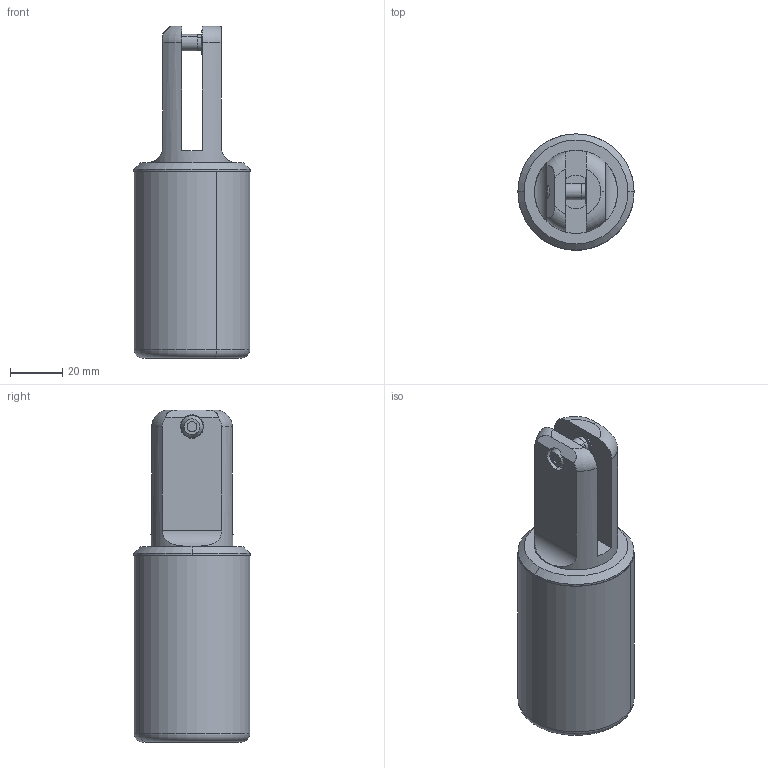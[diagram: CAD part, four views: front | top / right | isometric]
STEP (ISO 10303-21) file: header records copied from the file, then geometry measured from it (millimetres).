
FILE_DESCRIPTION (( 'STEP AP203' ), '1' );
FILE_NAME ('SP-02PF.STEP', '2008-08-12T04:00:43', ( 'ANDREW' ), ( 'SIMONDS INC' ), 'SwSTEP 2.0', 'SolidWorks 2008', '' );
FILE_SCHEMA (( 'CONFIG_CONTROL_DESIGN' ));
Length unit declared in the file: inch
Products named in the file (5): SP-01PF; 2-02_Default<As Machined>; SP-02PF; 33-01_Default<As Machined>; 23-01_Default<As Machined>
Assembly tree (4 placements, depth 2):
  SP-02PF
    SP-01PF
    2-02_Default<As Machined>
    33-01_Default<As Machined>
    23-01_Default<As Machined>
Bounding box: 44.45 x 44.45 x 126.97 mm (x, y, z)
Volume: 95856 mm3; surface area: 32119.6 mm2
Topology: 4 solids, 6 shells, 295 faces, 696 edges, 424 vertices
Faces by surface type: plane 165, cylinder 92, cone 32, torus 6
Entity records: 9186 total; most frequent: CARTESIAN_POINT 1730, DIRECTION 1541, ORIENTED_EDGE 1384, EDGE_CURVE 692, AXIS2_PLACEMENT_3D 567, VERTEX_POINT 424, LINE 407, VECTOR 407
